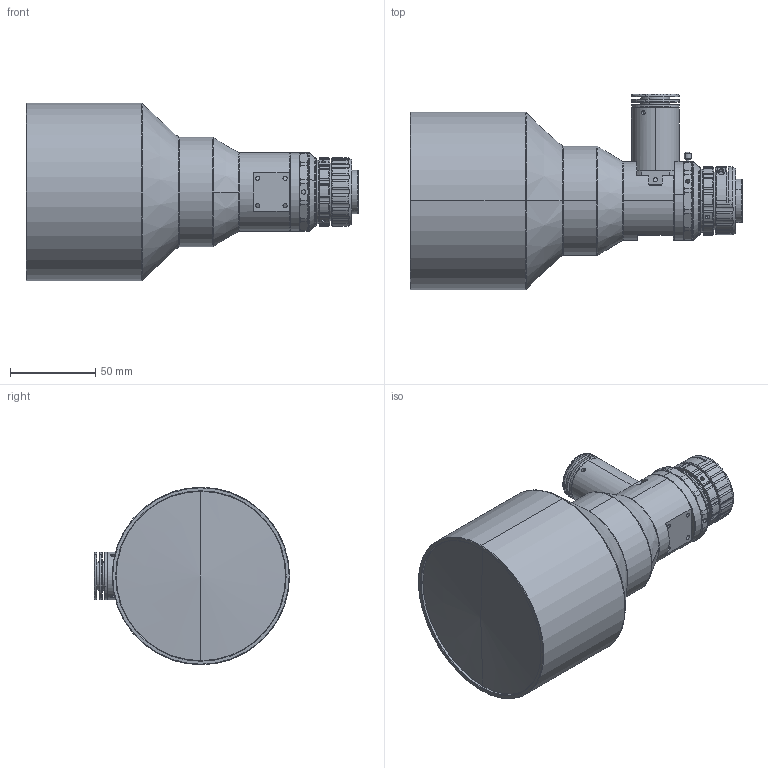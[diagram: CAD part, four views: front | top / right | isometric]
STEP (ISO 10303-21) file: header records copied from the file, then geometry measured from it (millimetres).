
FILE_DESCRIPTION (( 'STEP AP203' ), '1' );
FILE_NAME ('DTCA121-80C-G-AL.STEP', '2022-12-08T08:03:32', ( '' ), ( '' ), 'SwSTEP 2.0', 'SolidWorks 2017', '' );
FILE_SCHEMA (( 'CONFIG_CONTROL_DESIGN' ));
Length unit declared in the file: millimetre
Products named in the file (1): DTCA121-80C-G-AL
Bounding box: 194.54 x 114.4 x 104 mm (x, y, z)
Volume: 912067.3 mm3; surface area: 70284.7 mm2
Topology: 1 solids, 16 shells, 566 faces, 1393 edges, 871 vertices
Faces by surface type: cylinder 272, cone 162, plane 113, bspline 19
Entity records: 19323 total; most frequent: CARTESIAN_POINT 6241, ORIENTED_EDGE 2754, DIRECTION 2684, EDGE_CURVE 1377, AXIS2_PLACEMENT_3D 1104, VERTEX_POINT 871, EDGE_LOOP 616, ADVANCED_FACE 566
